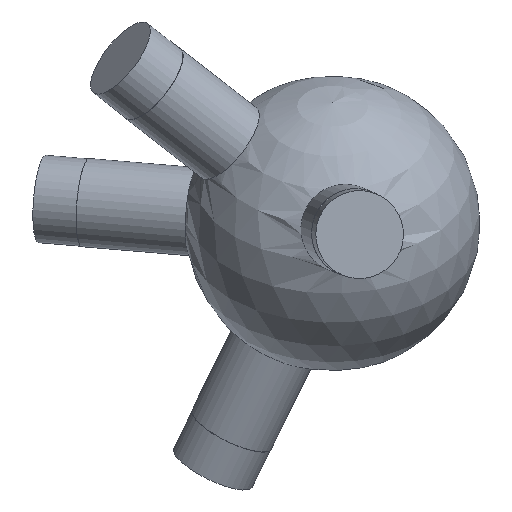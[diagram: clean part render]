
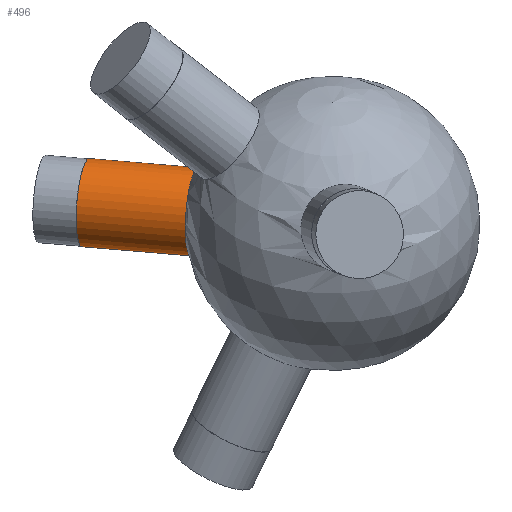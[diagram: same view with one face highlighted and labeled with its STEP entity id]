
A CAD part, isometric view. The second image highlights one B-rep face of the part: STEP entity #496.
In plain terms, the highlighted cylindrical face has radius 6 mm (diameter 12 mm), a full revolution.
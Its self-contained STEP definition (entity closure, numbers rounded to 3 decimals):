
#35 = SPHERICAL_SURFACE('',#36,20.);
#36 = AXIS2_PLACEMENT_3D('',#37,#38,#39);
#37 = CARTESIAN_POINT('',(0.,0.,0.));
#38 = DIRECTION('',(0.,0.,1.));
#39 = DIRECTION('',(1.,0.,-0.));
#158 = EDGE_CURVE('',#159,#159,#161,.T.);
#159 = VERTEX_POINT('',#160);
#160 = CARTESIAN_POINT('',(-5.286,19.267,
    -0.926));
#161 = SURFACE_CURVE('',#162,(#167,#229),.PCURVE_S1.);
#162 = CIRCLE('',#163,6.);
#163 = AXIS2_PLACEMENT_3D('',#164,#165,#166);
#164 = CARTESIAN_POINT('',(-10.328,16.015,
    -0.926));
#165 = DIRECTION('',(-0.541,0.839,-0.049)
  );
#166 = DIRECTION('',(-0.84,-0.542,0.)
  );
#167 = PCURVE('',#35,#168);
#168 = DEFINITIONAL_REPRESENTATION('',(#169),#228);
#169 = B_SPLINE_CURVE_WITH_KNOTS('',8,(#170,#171,#172,#173,#174,#175,
    #176,#177,#178,#179,#180,#181,#182,#183,#184,#185,#186,#187,#188,
    #189,#190,#191,#192,#193,#194,#195,#196,#197,#198,#199,#200,#201,
    #202,#203,#204,#205,#206,#207,#208,#209,#210,#211,#212,#213,#214,
    #215,#216,#217,#218,#219,#220,#221,#222,#223,#224,#225,#226,#227),
  .UNSPECIFIED.,.F.,.F.,(9,7,7,7,7,7,7,7,9),(3.142,
    3.927,4.614,5.216,6.268,
    7.057,7.649,8.537,9.425),
  .UNSPECIFIED.);
#170 = CARTESIAN_POINT('',(1.839,-0.046));
#171 = CARTESIAN_POINT('',(1.838,-0.076));
#172 = CARTESIAN_POINT('',(1.841,-0.105));
#173 = CARTESIAN_POINT('',(1.847,-0.134));
#174 = CARTESIAN_POINT('',(1.856,-0.163));
#175 = CARTESIAN_POINT('',(1.868,-0.19));
#176 = CARTESIAN_POINT('',(1.883,-0.216));
#177 = CARTESIAN_POINT('',(1.901,-0.24));
#178 = CARTESIAN_POINT('',(1.94,-0.28));
#179 = CARTESIAN_POINT('',(1.961,-0.297));
#180 = CARTESIAN_POINT('',(1.983,-0.312));
#181 = CARTESIAN_POINT('',(2.007,-0.325));
#182 = CARTESIAN_POINT('',(2.032,-0.336));
#183 = CARTESIAN_POINT('',(2.058,-0.344));
#184 = CARTESIAN_POINT('',(2.085,-0.349));
#185 = CARTESIAN_POINT('',(2.136,-0.354));
#186 = CARTESIAN_POINT('',(2.16,-0.354));
#187 = CARTESIAN_POINT('',(2.184,-0.353));
#188 = CARTESIAN_POINT('',(2.208,-0.349));
#189 = CARTESIAN_POINT('',(2.232,-0.343));
#190 = CARTESIAN_POINT('',(2.254,-0.335));
#191 = CARTESIAN_POINT('',(2.276,-0.325));
#192 = CARTESIAN_POINT('',(2.332,-0.294));
#193 = CARTESIAN_POINT('',(2.364,-0.269));
#194 = CARTESIAN_POINT('',(2.392,-0.239));
#195 = CARTESIAN_POINT('',(2.415,-0.205));
#196 = CARTESIAN_POINT('',(2.432,-0.168));
#197 = CARTESIAN_POINT('',(2.443,-0.13));
#198 = CARTESIAN_POINT('',(2.449,-0.09));
#199 = CARTESIAN_POINT('',(2.449,-0.021));
#200 = CARTESIAN_POINT('',(2.445,0.008));
#201 = CARTESIAN_POINT('',(2.439,0.037));
#202 = CARTESIAN_POINT('',(2.43,0.066));
#203 = CARTESIAN_POINT('',(2.417,0.093));
#204 = CARTESIAN_POINT('',(2.402,0.119));
#205 = CARTESIAN_POINT('',(2.384,0.142));
#206 = CARTESIAN_POINT('',(2.347,0.18));
#207 = CARTESIAN_POINT('',(2.33,0.195));
#208 = CARTESIAN_POINT('',(2.312,0.208));
#209 = CARTESIAN_POINT('',(2.293,0.22));
#210 = CARTESIAN_POINT('',(2.272,0.23));
#211 = CARTESIAN_POINT('',(2.251,0.238));
#212 = CARTESIAN_POINT('',(2.229,0.245));
#213 = CARTESIAN_POINT('',(2.173,0.257));
#214 = CARTESIAN_POINT('',(2.138,0.259));
#215 = CARTESIAN_POINT('',(2.104,0.258));
#216 = CARTESIAN_POINT('',(2.069,0.252));
#217 = CARTESIAN_POINT('',(2.036,0.241));
#218 = CARTESIAN_POINT('',(2.005,0.227));
#219 = CARTESIAN_POINT('',(1.976,0.209));
#220 = CARTESIAN_POINT('',(1.924,0.166));
#221 = CARTESIAN_POINT('',(1.901,0.141));
#222 = CARTESIAN_POINT('',(1.881,0.114));
#223 = CARTESIAN_POINT('',(1.865,0.084));
#224 = CARTESIAN_POINT('',(1.852,0.053));
#225 = CARTESIAN_POINT('',(1.844,0.02));
#226 = CARTESIAN_POINT('',(1.839,-0.013));
#227 = CARTESIAN_POINT('',(1.839,-0.046));
#228 = ( GEOMETRIC_REPRESENTATION_CONTEXT(2) 
PARAMETRIC_REPRESENTATION_CONTEXT() REPRESENTATION_CONTEXT('2D SPACE',''
  ) );
#229 = PCURVE('',#230,#235);
#230 = CYLINDRICAL_SURFACE('',#231,6.);
#231 = AXIS2_PLACEMENT_3D('',#232,#233,#234);
#232 = CARTESIAN_POINT('',(0.,0.,0.));
#233 = DIRECTION('',(-0.541,0.839,-0.049)
  );
#234 = DIRECTION('',(0.84,0.542,0.)
  );
#235 = DEFINITIONAL_REPRESENTATION('',(#236),#240);
#236 = LINE('',#237,#238);
#237 = CARTESIAN_POINT('',(-3.142,19.079));
#238 = VECTOR('',#239,1.);
#239 = DIRECTION('',(1.,0.));
#240 = ( GEOMETRIC_REPRESENTATION_CONTEXT(2) 
PARAMETRIC_REPRESENTATION_CONTEXT() REPRESENTATION_CONTEXT('2D SPACE',''
  ) );
#496 = ADVANCED_FACE('',(#497),#230,.T.);
#497 = FACE_BOUND('',#498,.T.);
#498 = EDGE_LOOP('',(#499,#522,#549,#550));
#499 = ORIENTED_EDGE('',*,*,#500,.T.);
#500 = EDGE_CURVE('',#159,#501,#503,.T.);
#501 = VERTEX_POINT('',#502);
#502 = CARTESIAN_POINT('',(-13.469,31.954,
    -1.659));
#503 = SEAM_CURVE('',#504,(#508,#515),.PCURVE_S1.);
#504 = LINE('',#505,#506);
#505 = CARTESIAN_POINT('',(5.042,3.252,
    0.));
#506 = VECTOR('',#507,1.);
#507 = DIRECTION('',(-0.541,0.839,-0.049)
  );
#508 = PCURVE('',#230,#509);
#509 = DEFINITIONAL_REPRESENTATION('',(#510),#514);
#510 = LINE('',#511,#512);
#511 = CARTESIAN_POINT('',(6.283,-0.));
#512 = VECTOR('',#513,1.);
#513 = DIRECTION('',(0.,1.));
#514 = ( GEOMETRIC_REPRESENTATION_CONTEXT(2) 
PARAMETRIC_REPRESENTATION_CONTEXT() REPRESENTATION_CONTEXT('2D SPACE',''
  ) );
#515 = PCURVE('',#230,#516);
#516 = DEFINITIONAL_REPRESENTATION('',(#517),#521);
#517 = LINE('',#518,#519);
#518 = CARTESIAN_POINT('',(0.,-0.));
#519 = VECTOR('',#520,1.);
#520 = DIRECTION('',(0.,1.));
#521 = ( GEOMETRIC_REPRESENTATION_CONTEXT(2) 
PARAMETRIC_REPRESENTATION_CONTEXT() REPRESENTATION_CONTEXT('2D SPACE',''
  ) );
#522 = ORIENTED_EDGE('',*,*,#523,.F.);
#523 = EDGE_CURVE('',#501,#501,#524,.T.);
#524 = SURFACE_CURVE('',#525,(#530,#537),.PCURVE_S1.);
#525 = CIRCLE('',#526,6.);
#526 = AXIS2_PLACEMENT_3D('',#527,#528,#529);
#527 = CARTESIAN_POINT('',(-18.511,28.702,
    -1.659));
#528 = DIRECTION('',(-0.541,0.839,-0.049)
  );
#529 = DIRECTION('',(0.84,0.542,0.));
#530 = PCURVE('',#230,#531);
#531 = DEFINITIONAL_REPRESENTATION('',(#532),#536);
#532 = LINE('',#533,#534);
#533 = CARTESIAN_POINT('',(0.,34.194));
#534 = VECTOR('',#535,1.);
#535 = DIRECTION('',(1.,0.));
#536 = ( GEOMETRIC_REPRESENTATION_CONTEXT(2) 
PARAMETRIC_REPRESENTATION_CONTEXT() REPRESENTATION_CONTEXT('2D SPACE',''
  ) );
#537 = PCURVE('',#538,#543);
#538 = PLANE('',#539);
#539 = AXIS2_PLACEMENT_3D('',#540,#541,#542);
#540 = CARTESIAN_POINT('',(-18.511,28.702,
    -1.659));
#541 = DIRECTION('',(-0.541,0.839,-0.049)
  );
#542 = DIRECTION('',(0.84,0.542,0.)
  );
#543 = DEFINITIONAL_REPRESENTATION('',(#544),#548);
#544 = CIRCLE('',#545,6.);
#545 = AXIS2_PLACEMENT_2D('',#546,#547);
#546 = CARTESIAN_POINT('',(0.,0.));
#547 = DIRECTION('',(1.,0.));
#548 = ( GEOMETRIC_REPRESENTATION_CONTEXT(2) 
PARAMETRIC_REPRESENTATION_CONTEXT() REPRESENTATION_CONTEXT('2D SPACE',''
  ) );
#549 = ORIENTED_EDGE('',*,*,#500,.F.);
#550 = ORIENTED_EDGE('',*,*,#158,.T.);
